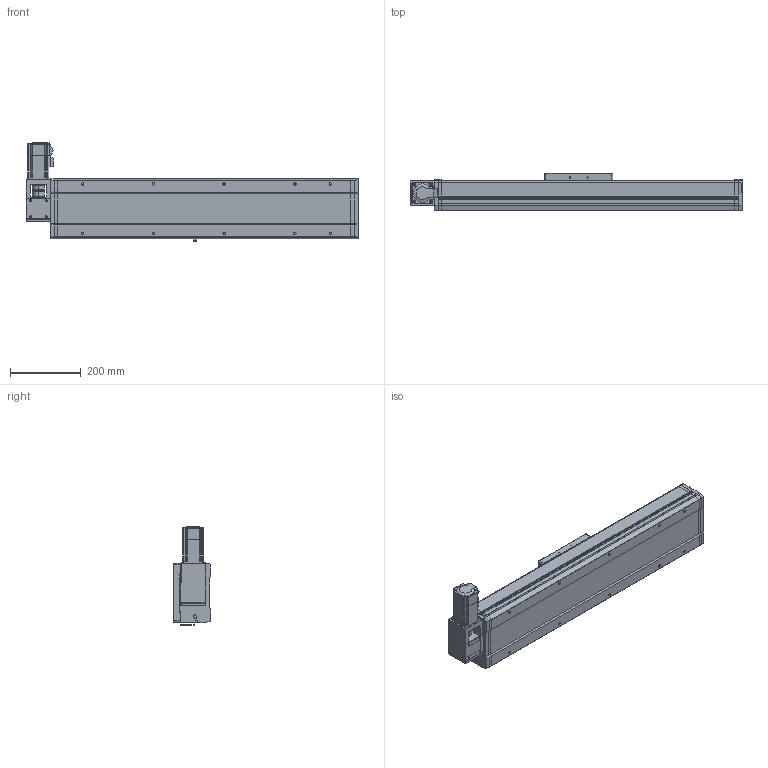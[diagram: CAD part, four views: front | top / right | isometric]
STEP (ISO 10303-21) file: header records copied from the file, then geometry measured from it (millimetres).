
FILE_DESCRIPTION((''),'2;1');
FILE_NAME('170-TZJ3FL-S550_ASM','2015-12-04T',('lenovo'),(''),'PRO/ENGINEER BY PARAMETRIC TECHNOLOGY CORPORATION, 2010280','PRO/ENGINEER BY PARAMETRIC TECHNOLOGY CORPORATION, 2010280','');
FILE_SCHEMA(('CONFIG_CONTROL_DESIGN'));
Length unit declared in the file: millimetre
Products named in the file (5): 170-TJFL-DZ; 170-HK; 170-HDB-01; 170-TZJ3FL-DJZ; 170-TZJ3FL-S550_ASM
Assembly tree (4 placements, depth 2):
  170-TZJ3FL-S550_ASM
    170-TJFL-DZ
    170-HK
    170-HDB-01
    170-TZJ3FL-DJZ
Bounding box: 939 x 107 x 278.5 mm (x, y, z)
Volume: 7357686.4 mm3; surface area: 1152434.8 mm2
Topology: 6 solids, 30 shells, 1474 faces, 4009 edges, 2673 vertices
Faces by surface type: plane 790, cylinder 543, cone 113, torus 28
Entity records: 47259 total; most frequent: CARTESIAN_POINT 8439, DIRECTION 8292, ORIENTED_EDGE 8018, EDGE_CURVE 4009, AXIS2_PLACEMENT_3D 2842, VERTEX_POINT 2673, VECTOR 2608, LINE 2608
